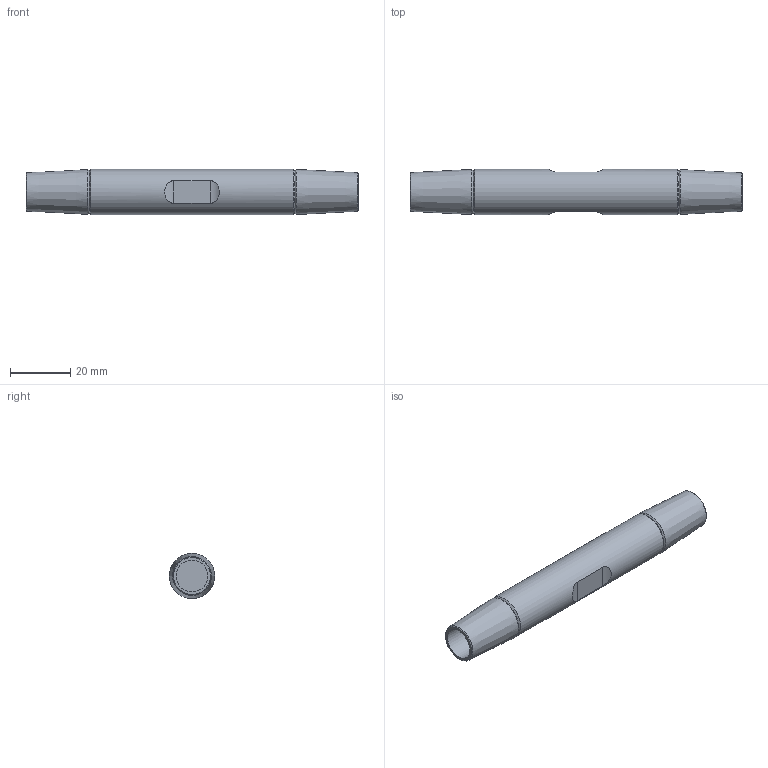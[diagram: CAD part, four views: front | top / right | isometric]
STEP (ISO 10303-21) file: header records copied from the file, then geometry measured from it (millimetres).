
FILE_DESCRIPTION(/* description */ (''),/* implementation_level */ '2;1');
FILE_NAME(/* name */ 'G:\Engineering\700 CAD\Internet-PX-1-step-igs-dxf\520-MUF-Arbeitsdateien\520-010-MUF.stp',/* time_stamp */ '2020-06-30T13:09:53+02:00',/* author */ ('schwarz'),/* organization */ (''),/* preprocessor_version */ 'ST-DEVELOPER v16.1',/* originating_system */ 'Autodesk Inventor 2016',/* authorisation */ '');
FILE_SCHEMA (('AUTOMOTIVE_DESIGN { 1 0 10303 214 3 1 1 }'));
Length unit declared in the file: centimetre
Products named in the file (1): Zusammenbau Muffe 520 010 Kunde
Bounding box: 110 x 15 x 15 mm (x, y, z)
Volume: 15447 mm3; surface area: 6366.1 mm2
Topology: 1 solids, 1 shells, 21 faces, 44 edges, 28 vertices
Faces by surface type: cone 8, cylinder 7, plane 6
Full cylindrical faces by diameter (mm): 10.5 x2, 15 x1
Entity records: 613 total; most frequent: CARTESIAN_POINT 166, DIRECTION 80, ORIENTED_EDGE 60, EDGE_LOOP 36, AXIS2_PLACEMENT_3D 36, EDGE_CURVE 30, VERTEX_POINT 26, STYLED_ITEM 22
